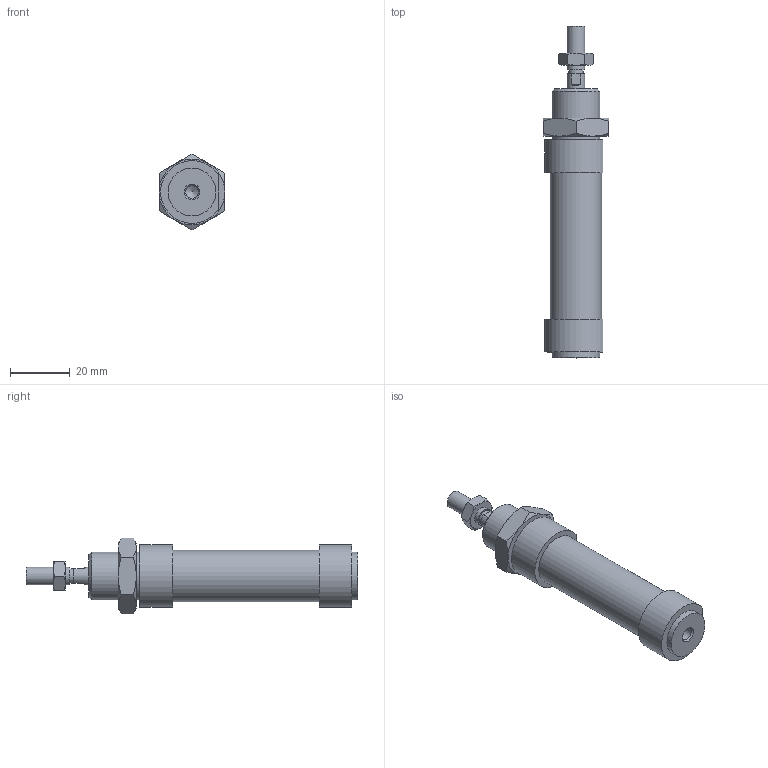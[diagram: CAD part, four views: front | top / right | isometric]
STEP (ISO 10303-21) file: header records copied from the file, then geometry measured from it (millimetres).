
FILE_DESCRIPTION((''),'2;1');
FILE_NAME('I:\Area Tecnica\Disegni\VARIE-3D\Componenti\1280\1281_##_####_#\1281_16_0015.iam.stp','2009-06-04T09:38:22',(''),(''),'Autodesk Inventor 2010','Autodesk Inventor 2010','');
FILE_SCHEMA(('AUTOMOTIVE_DESIGN { 1 0 10303 214 1 1 1 1 }'));
Length unit declared in the file: millimetre
Products named in the file (5): 1281_16_0015; C1281_16_15; S1280_16_15; 1200_16_05; 1200_16_06
Assembly tree (4 placements, depth 2):
  1281_16_0015
    C1281_16_15
    S1280_16_15
    1200_16_05
    1200_16_06
Bounding box: 22 x 111 x 25.4 mm (x, y, z)
Volume: 24638 mm3; surface area: 9645.9 mm2
Topology: 4 solids, 4 shells, 83 faces, 169 edges, 102 vertices
Faces by surface type: plane 34, cone 26, bspline 14, cylinder 9
Full cylindrical faces by diameter (mm): 5 x1, 6 x3, 16 x2, 17.2 x1
Entity records: 2370 total; most frequent: CARTESIAN_POINT 636, DIRECTION 314, ORIENTED_EDGE 284, AXIS2_PLACEMENT_3D 142, EDGE_CURVE 142, EDGE_LOOP 116, VERTEX_POINT 96, STYLED_ITEM 87
